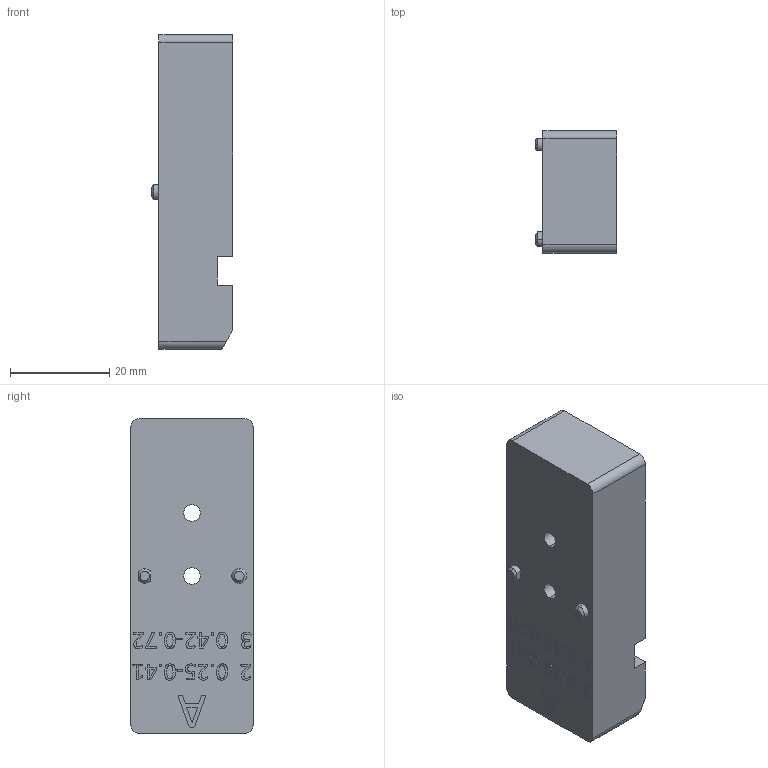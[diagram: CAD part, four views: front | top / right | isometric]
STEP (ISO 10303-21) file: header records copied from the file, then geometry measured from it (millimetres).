
FILE_DESCRIPTION (( 'STEP AP203' ), '1' );
FILE_NAME ('5011204_REV-A - SHAFT FINGER A.STEP', '2024-11-07T18:40:52', ( '' ), ( '' ), 'SwSTEP 2.0', 'SolidWorks 2019', '' );
FILE_SCHEMA (( 'CONFIG_CONTROL_DESIGN' ));
Length unit declared in the file: inch
Products named in the file (1): 5011204_REV-A - SHAFT FINGER A
Bounding box: 16.51 x 24.61 x 63.5 mm (x, y, z)
Volume: 22477.2 mm3; surface area: 6090.5 mm2
Topology: 1 solids, 1 shells, 294 faces, 783 edges, 521 vertices
Faces by surface type: bspline 165, plane 112, cylinder 13, cone 4
Entity records: 16875 total; most frequent: CARTESIAN_POINT 10580, ORIENTED_EDGE 1566, EDGE_CURVE 783, DIRECTION 738, VERTEX_POINT 521, VECTOR 420, LINE 420, B_SPLINE_CURVE_WITH_KNOTS 332
